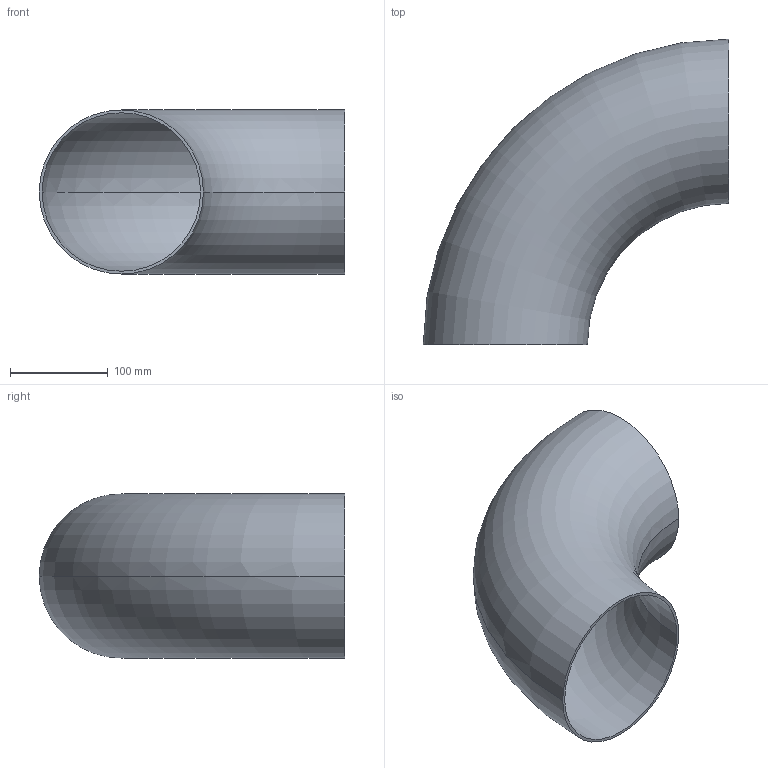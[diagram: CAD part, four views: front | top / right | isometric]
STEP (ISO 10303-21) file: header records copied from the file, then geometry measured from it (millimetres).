
FILE_DESCRIPTION (( 'STEP AP203' ), '1' );
FILE_NAME ('OT200-150-168_3x2_9_OSTP.step', '2020-12-16T02:52:44', ( '' ), ( '' ), 'SwSTEP 2.0', 'SolidWorks 2014', '' );
FILE_SCHEMA (( 'CONFIG_CONTROL_DESIGN' ));
Length unit declared in the file: millimetre
Products named in the file (1): OT200-150-168_3x2_9_OSTP
Bounding box: 313.15 x 313.15 x 168.3 mm (x, y, z)
Volume: 542049.2 mm3; surface area: 376840.9 mm2
Topology: 1 solids, 1 shells, 6 faces, 12 edges, 8 vertices
Faces by surface type: torus 4, plane 2
Entity records: 249 total; most frequent: DIRECTION 38, CARTESIAN_POINT 27, ORIENTED_EDGE 24, AXIS2_PLACEMENT_3D 19, CIRCLE 12, EDGE_CURVE 12, PERSON_AND_ORGANIZATION 8, VERTEX_POINT 8
